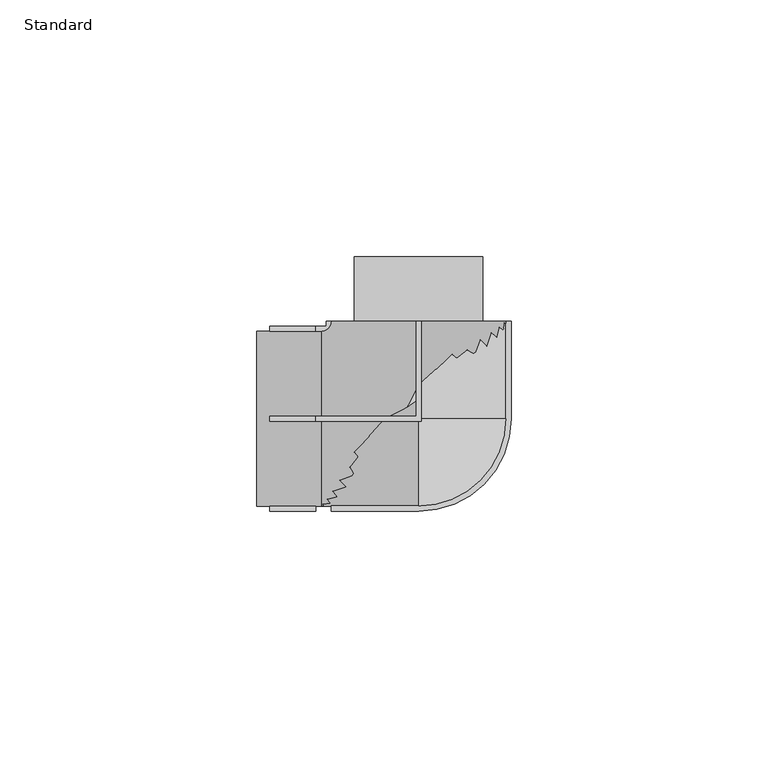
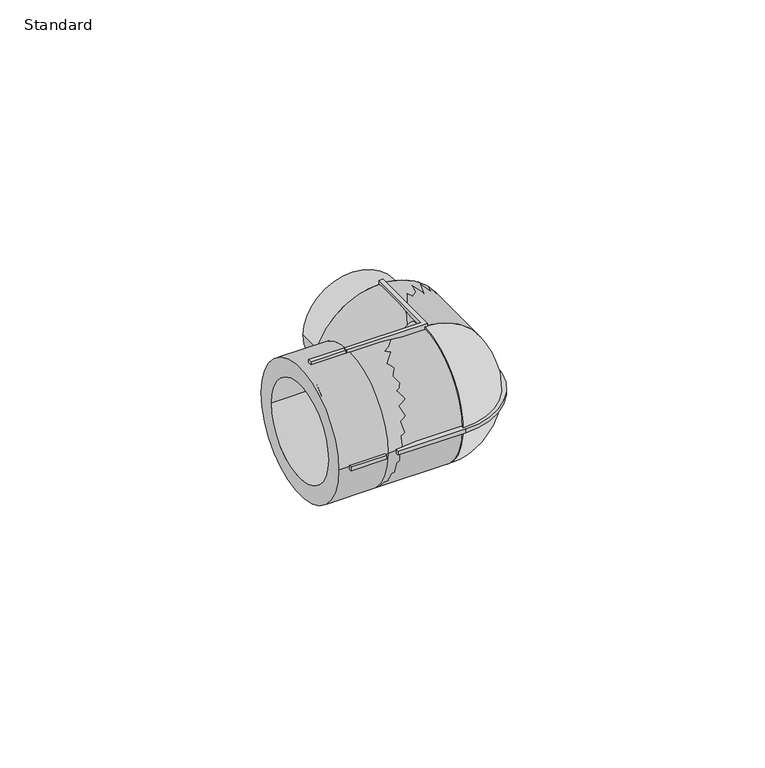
"""IFC4 building model written with IfcOpenShell, lengths in millimetres: pipe fitting geometry, EGB_VASEN_ PPR_Codo 90 hembra macho  : Standard."""

from ifc_helpers import new_model, si_unit, point, frame, origin, origin_2d, place, context, project, spatial, polyline, circle_curve, ellipse_curve, trimmed, segment, composite_curve, outline, extrude, source, transform, mapped, element, save
from ifc_brep_helpers import plane_surface, cylinder_surface, revolved_surface, advanced_brep


def standard_507d6530(model_context):
    return source(origin(), model_context, "Body", "SolidModel", [
        advanced_brep(
        [(0.0, 0.0, -17.0), (0.0, 0.0, 17.0)],
        [
            (0, 1, circle_curve(frame((0.0, 0.0, 0.0), z_axis=(-1.0, 0.0, 0.0), x_axis=(0.0, 1.0, 0.0)), 17.0)),
            (1, 0),
            (1, 0, circle_curve(frame((0.0, 0.0, 0.0), z_axis=(0.0, 1.0, 0.0), x_axis=(-1.0, 0.0, 0.0)), 17.0)),
        ],
        [
            plane_surface(frame((0.0, 0.0, 27.0431585), z_axis=(-1.0, 0.0, 0.0), x_axis=(0.0, -1.0, 0.0))),
            plane_surface(frame((0.0, 0.0, 27.0431585), z_axis=(0.0, 1.0, 0.0), x_axis=(1.0, 0.0, 0.0))),
            revolved_surface(trimmed(ellipse_curve(frame((0.0, 0.0, 0.0), z_axis=(1.0, 0.0, 0.0), x_axis=(0.0, 1.0, 0.0)), 17.0, 17.0), [point((0.0, 0.0, 17.0))], [point((0.0, 0.0, -17.0))], True, "CARTESIAN"), (0.0, 0.0, 27.0431585), (0.0, 0.0, -1.0)),
        ],
        [
            (0, [[1, 2]]),
            (1, [[3, -2]]),
            (2, [[-1, -3]]),
        ],
    ),
        advanced_brep(
        [(-31.5, -17.0, 0.0), (-31.5, 17.0, 0.0), (-31.5, -12.5, 0.0), (-31.5, 12.5, 0.0), (-19.0, -17.0, 0.0), (-19.0, 17.0, 0.0), (-19.0, -12.5, 0.0), (-19.0, 12.5, 0.0), (17.0, 19.0, 0.0), (-17.0, 19.0, 0.0), (-12.5, 19.0, 0.0), (12.5, 19.0, 0.0), (-8.0, 19.0, 0.0), (8.0, 19.0, 0.0), (12.5, 31.5, 0.0), (-12.5, 31.5, 0.0), (8.0, 31.5, 0.0), (-8.0, 31.5, 0.0)],
        [
            (0, 1, circle_curve(frame((-31.5, 0.0, 0.0), z_axis=(-1.0, 0.0, 0.0), x_axis=(0.0, 1.0, 0.0)), 17.0)),
            (1, 0, circle_curve(frame((-31.5, 0.0, 0.0), z_axis=(-1.0, 0.0, 0.0), x_axis=(0.0, 1.0, 0.0)), 17.0)),
            (2, 3, circle_curve(frame((-31.5, 0.0, 0.0), z_axis=(1.0, 0.0, 0.0), x_axis=(0.0, 1.0, 0.0)), 12.5)),
            (3, 2, circle_curve(frame((-31.5, 0.0, 0.0), z_axis=(1.0, 0.0, 0.0), x_axis=(0.0, 1.0, 0.0)), 12.5)),
            (0, 4),
            (4, 5, circle_curve(frame((-19.0, 0.0, 0.0), z_axis=(-1.0, 0.0, 0.0), x_axis=(0.0, 1.0, 0.0)), 17.0)),
            (5, 1),
            (5, 4, circle_curve(frame((-19.0, 0.0, 0.0), z_axis=(-1.0, 0.0, 0.0), x_axis=(0.0, 1.0, 0.0)), 17.0)),
            (2, 6),
            (6, 7, circle_curve(frame((-19.0, 0.0, 0.0), z_axis=(1.0, 0.0, 0.0), x_axis=(0.0, 1.0, 0.0)), 12.5)),
            (7, 3),
            (7, 6, circle_curve(frame((-19.0, 0.0, 0.0), z_axis=(1.0, 0.0, 0.0), x_axis=(0.0, 1.0, 0.0)), 12.5)),
            (8, 9, circle_curve(frame((0.0, 19.0, 0.0), z_axis=(0.0, 1.0, 0.0), x_axis=(-1.0, 0.0, 0.0)), 17.0)),
            (9, 8, circle_curve(frame((0.0, 19.0, 0.0), z_axis=(0.0, 1.0, 0.0), x_axis=(-1.0, 0.0, 0.0)), 17.0)),
            (10, 11, circle_curve(frame((0.0, 19.0, 0.0), z_axis=(0.0, -1.0, 0.0), x_axis=(-1.0, 0.0, 0.0)), 12.5)),
            (11, 10, circle_curve(frame((0.0, 19.0, 0.0), z_axis=(0.0, -1.0, 0.0), x_axis=(-1.0, 0.0, 0.0)), 12.5)),
            (12, 13, circle_curve(frame((0.0, 19.0, 0.0), z_axis=(0.0, 1.0, 0.0), x_axis=(-1.0, 0.0, 0.0)), 8.0)),
            (13, 12, circle_curve(frame((0.0, 19.0, 0.0), z_axis=(0.0, 1.0, 0.0), x_axis=(-1.0, 0.0, 0.0)), 8.0)),
            (9, 5, circle_curve(frame((-19.0, 19.0, 0.0), z_axis=(0.0, 0.0, -1.0), x_axis=(0.0, -1.0, 0.0)), 2.0)),
            (4, 8, circle_curve(frame((-19.0, 19.0, 0.0), z_axis=(0.0, 0.0, 1.0), x_axis=(0.0, -1.0, 0.0)), 36.0)),
            (14, 15, circle_curve(frame((0.0, 31.5, 0.0), z_axis=(0.0, 1.0, 0.0), x_axis=(-1.0, 0.0, 0.0)), 12.5)),
            (15, 14, circle_curve(frame((0.0, 31.5, 0.0), z_axis=(0.0, 1.0, 0.0), x_axis=(-1.0, 0.0, 0.0)), 12.5)),
            (16, 17, circle_curve(frame((0.0, 31.5, 0.0), z_axis=(0.0, -1.0, 0.0), x_axis=(-1.0, 0.0, 0.0)), 8.0)),
            (17, 16, circle_curve(frame((0.0, 31.5, 0.0), z_axis=(0.0, -1.0, 0.0), x_axis=(-1.0, 0.0, 0.0)), 8.0)),
            (16, 13),
            (12, 17),
            (14, 11),
            (10, 15),
        ],
        [
            plane_surface(frame((-31.5, 0.0, 0.0), z_axis=(-1.0, 0.0, 0.0), x_axis=(0.0, 0.0, 1.0))),
            cylinder_surface(frame((-31.5, 0.0, 0.0), z_axis=(-1.0, 0.0, 0.0), x_axis=(0.0, 1.0, 0.0)), 17.0),
            revolved_surface(polyline([(-19.0, 12.5, 0.0), (-31.5, 12.5, 0.0)]), (-31.5, 0.0, 0.0), (1.0, 0.0, 0.0)),
            plane_surface(frame((-19.0, 0.0, 0.0), z_axis=(-1.0, 0.0, 0.0), x_axis=(0.0, 0.0, 1.0))),
            plane_surface(frame((0.0, 19.0, 0.0), z_axis=(0.0, 1.0, 0.0), x_axis=(0.0, 0.0, 1.0))),
            revolved_surface(trimmed(ellipse_curve(frame((-19.0, 0.0, 0.0), z_axis=(-1.0, 0.0, 0.0), x_axis=(0.0, 1.0, 0.0)), 17.0, 17.0), [point((-19.0, -17.0, 0.0))], [point((-19.0, 17.0, 0.0))], True, "CARTESIAN"), (-19.0, 19.0, 0.0), (0.0, 0.0, 1.0)),
            revolved_surface(trimmed(ellipse_curve(frame((-19.0, 0.0, 0.0), z_axis=(-1.0, 0.0, 0.0), x_axis=(0.0, 1.0, 0.0)), 17.0, 17.0), [point((-19.0, 17.0, 0.0))], [point((-19.0, -17.0, 0.0))], True, "CARTESIAN"), (-19.0, 19.0, 0.0), (0.0, 0.0, 1.0)),
            plane_surface(frame((0.0, 31.5, 0.0), z_axis=(0.0, 1.0, 0.0), x_axis=(0.0, 0.0, 1.0))),
            revolved_surface(polyline([(-8.0, 31.5, 0.0), (-8.0, 19.0, 0.0)]), (0.0, 19.0, 0.0), (0.0, 1.0, 0.0)),
            cylinder_surface(frame((0.0, 19.0, 0.0), z_axis=(0.0, -1.0, 0.0), x_axis=(-1.0, 0.0, 0.0)), 12.5),
        ],
        [
            (0, [[1, 2], [3, 4]]),
            (1, [[-1, 5, 6, 7]]),
            (1, [[-2, -7, 8, -5]]),
            (2, [[-3, 9, 10, 11]]),
            (2, [[-4, -11, 12, -9]]),
            (3, [[-10, -12]]),
            (4, [[13, 14], [15, 16]]),
            (4, [[17, 18]]),
            (5, [[-14, 19, -6, 20]]),
            (6, [[-13, -20, -8, -19]]),
            (7, [[21, 22], [23, 24]]),
            (8, [[-23, 25, -17, 26]]),
            (8, [[-24, -26, -18, -25]]),
            (9, [[-21, 27, -15, 28]]),
            (9, [[-22, -28, -16, -27]]),
        ],
    ),
        extrude(outline(composite_curve([segment(polyline([(-17.0, -18.0), (-17.0, -16.0), (0.0, -16.0)]), True, "CONTINUOUS"), segment(trimmed(circle_curve(origin_2d(), 16.0), [point((0.0, -16.0))], [point((16.0, 0.0))], True, "CARTESIAN"), True, "CONTINUOUS"), segment(polyline([(16.0, 0.0), (16.0, 19.0), (18.0, 19.0), (18.0, 0.0)]), True, "CONTINUOUS"), segment(trimmed(circle_curve(origin_2d(), 18.0), [point((18.0, 0.0))], [point((0.0, -18.0))], False, "CARTESIAN"), True, "CONTINUOUS"), segment(polyline([(0.0, -18.0), (-17.0, -18.0)]), True, "CONTINUOUS")], self_intersect=False)), frame((0.0, 0.0, -0.5), z_axis=(0.0, 0.0, 1.0), x_axis=(1.0, 0.0, 0.0)), (0.0, 0.0, 1.0), 1.0),
        extrude(outline(polyline([(-20.0, -0.5), (-20.0, 0.5), (-0.5, 0.5), (-0.5, 19.0), (0.5, 19.0), (0.5, -0.5), (-20.0, -0.5)])), frame((0.0, 0.0, 16.0), z_axis=(0.0, 0.0, 1.0), x_axis=(1.0, 0.0, 0.0)), (0.0, 0.0, 1.0), 2.0),
        extrude(outline(polyline([(-20.0, -0.5), (-20.0, 0.5), (-0.5, 0.5), (-0.5, 19.0), (0.5, 19.0), (0.5, -0.5), (-20.0, -0.5)])), frame((0.0, 0.0, -18.0), z_axis=(0.0, 0.0, 1.0), x_axis=(1.0, 0.0, 0.0)), (0.0, 0.0, 1.0), 2.0),
        extrude(outline(polyline([(-20.0, 16.0), (-20.0, 18.0), (-18.0, 18.0), (-18.0, 19.0), (-16.0, 19.0), (-16.0, 16.0), (-20.0, 16.0)])), frame((0.0, 0.0, -0.5), z_axis=(0.0, 0.0, 1.0), x_axis=(1.0, 0.0, 0.0)), (0.0, 0.0, 1.0), 1.0),
        extrude(outline(composite_curve([segment(trimmed(circle_curve(origin_2d(), 17.0), [point((-17.0, 0.0))], [point((17.0, 0.0))], False, "CARTESIAN"), True, "CONTINUOUS"), segment(trimmed(circle_curve(origin_2d(), 17.0), [point((17.0, 0.0))], [point((-17.0, 0.0))], False, "CARTESIAN"), True, "CONTINUOUS")], self_intersect=False)), frame((-19.0, 0.0, 0.0), z_axis=(1.0, 0.0, 0.0), x_axis=(0.0, 1.0, 0.0)), (0.0, 0.0, 1.0), 19.0),
        extrude(outline(composite_curve([segment(trimmed(circle_curve(origin_2d(), 17.0), [point((0.0, -17.0))], [point((0.0, 17.0))], False, "CARTESIAN"), True, "CONTINUOUS"), segment(trimmed(circle_curve(origin_2d(), 17.0), [point((0.0, 17.0))], [point((0.0, -17.0))], False, "CARTESIAN"), True, "CONTINUOUS")], self_intersect=False)), frame((0.0, 0.0, 0.0), z_axis=(0.0, 1.0, 0.0), x_axis=(0.0, 0.0, 1.0)), (0.0, 0.0, 1.0), 19.0),
        extrude(outline(polyline([(-20.0, 0.5), (-20.0, -0.5), (-29.0, -0.5), (-29.0, 0.5), (-20.0, 0.5)])), frame((0.0, 0.0, 16.0), z_axis=(0.0, 0.0, 1.0), x_axis=(1.0, 0.0, 0.0)), (0.0, 0.0, 1.0), 2.0),
        extrude(outline(polyline([(-20.0, 0.5), (-20.0, -0.5), (-29.0, -0.5), (-29.0, 0.5), (-20.0, 0.5)])), frame((0.0, 0.0, -18.0), z_axis=(0.0, 0.0, 1.0), x_axis=(1.0, 0.0, 0.0)), (0.0, 0.0, 1.0), 2.0),
        extrude(outline(polyline([(-20.0, 18.0), (-20.0, 16.0), (-29.0, 16.0), (-29.0, 18.0), (-20.0, 18.0)])), frame((0.0, 0.0, -0.5), z_axis=(0.0, 0.0, 1.0), x_axis=(1.0, 0.0, 0.0)), (0.0, 0.0, 1.0), 1.0),
        extrude(outline(polyline([(-20.0, -16.0), (-20.0, -18.0), (-29.0, -18.0), (-29.0, -16.0), (-20.0, -16.0)])), frame((0.0, 0.0, -0.5), z_axis=(0.0, 0.0, 1.0), x_axis=(1.0, 0.0, 0.0)), (0.0, 0.0, 1.0), 1.0),
    ])


if __name__ == "__main__":
    model = new_model("IFC4")
    model_context = context("Model", 3, world=origin())
    ifc_project = project(units=[si_unit("LENGTHUNIT", "METRE", prefix="MILLI")], contexts=[model_context])
    site = spatial("IfcSite", under=ifc_project)
    building = spatial("IfcBuilding", under=site)
    placement = place(None, origin())
    standard_shape = standard_507d6530(model_context)
    element("IfcPipeFitting", 1, ObjectType="EGB_VASEN_ PPR_Codo 90 hembra macho  : Standard", at=placement, inside=building, context=model_context, shape_type="MappedRepresentation", body=[
        mapped(standard_shape, transform((0.0, 0.0, 0.0), x_axis=(1.0, 0.0, 0.0), y_axis=(0.0, 1.0, 0.0), z_axis=(0.0, 0.0, 1.0))),
    ])
    save(model, "model.ifc")
